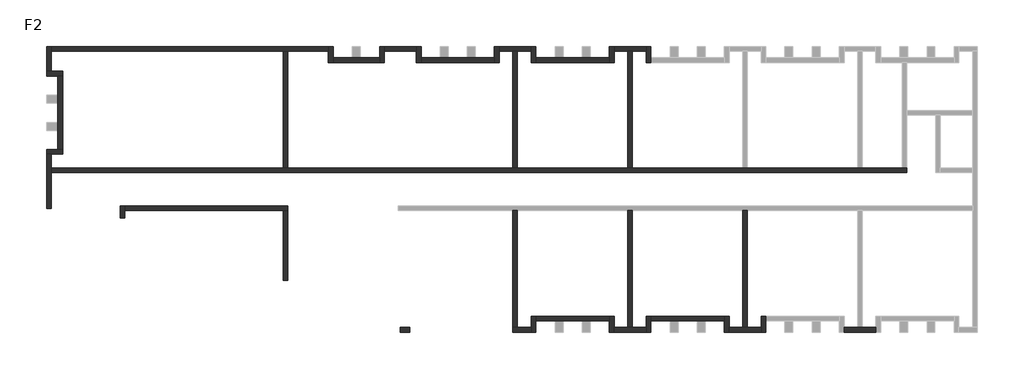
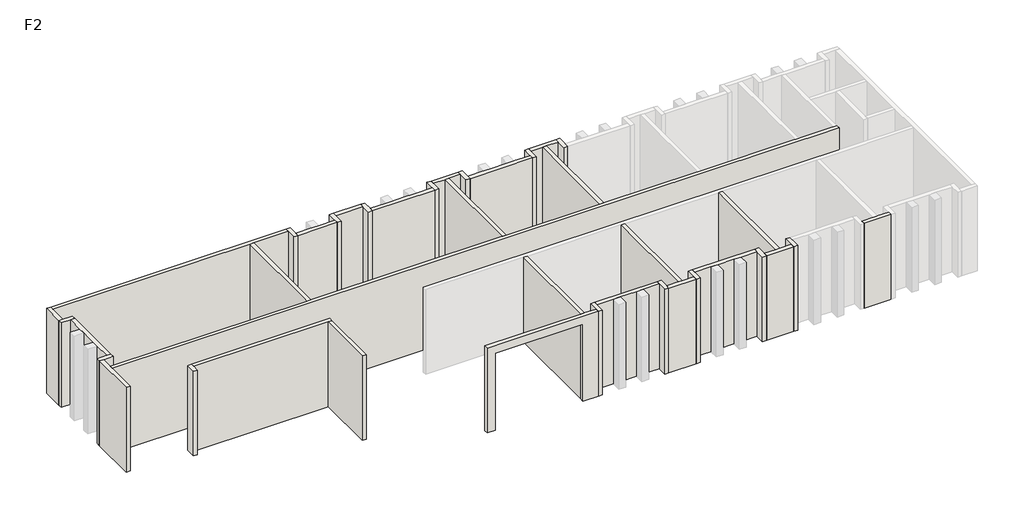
# One storey, part 1 of 2: 41 walls.
"""IFC4 building model written with IfcOpenShell, lengths in millimetres."""

from ifc_helpers import new_model, si_unit, frame, origin, place, context, project, spatial, polyline, outline, extrude, faceted_brep, element, save

model = new_model("IFC4")

# Units and contexts
model_context = context("Model", 3, world=origin())
ifc_project = project(units=[si_unit("LENGTHUNIT", "METRE", prefix="MILLI")], contexts=[model_context])

# Site, building, storey
site = spatial("IfcSite", under=ifc_project)
building = spatial("IfcBuilding", under=site)
storey = spatial("IfcBuildingStorey", under=building, Name="F2", Elevation=3600.0)

# Walls
placement = place(None, origin())
element("IfcWall", 1, ObjectType="F2-F5-24CM-外牆", at=placement, inside=storey, context=model_context, shape_type="Brep", body=[
    faceted_brep([(-38441.7970835, -20669.0484842, 3600.0), (-38441.7970835, -18409.0484842, 3600.0), (-38441.7970835, -18129.0484842, 3600.0), (-38441.7970835, -17269.0484842, 3600.0), (-38441.7970835, -17269.0484842, 10200.0), (-38441.7970835, -18129.0484842, 10200.0), (-38441.7970835, -18409.0484842, 10200.0), (-38441.7970835, -20669.0484842, 10200.0), (-38741.7970835, -20669.0484842, 3600.0), (-38741.7970835, -20669.0484842, 10200.0), (-38741.7970835, -17269.0484842, 10200.0), (-38741.7970835, -17269.0484842, 3600.0)], [[[0, 1, 2, 3, 4, 5, 6, 7]], [[8, 9, 10, 11]], [[3, 2, 1, 0, 8, 11]], [[7, 6, 5, 4, 10, 9]], [[0, 7, 9, 8]], [[4, 3, 11, 10]]]),
])
element("IfcWall", 2, ObjectType="F2-F5-24CM-外牆", at=placement, inside=storey, context=model_context, shape_type="Brep", body=[
    faceted_brep([(-38441.7970835, -10809.0484842, 3600.0), (-23921.7970835, -10809.0484842, 3600.0), (-23641.7970835, -10809.0484842, 3600.0), (-21081.7970835, -10809.0484842, 3600.0), (-21081.7970835, -10809.0484842, 10200.0), (-23641.7970835, -10809.0484842, 10200.0), (-23921.7970835, -10809.0484842, 10200.0), (-38441.7970835, -10809.0484842, 10200.0), (-38441.7970835, -10509.0484842, 3600.0), (-38441.7970835, -10509.0484842, 10200.0), (-21081.7970835, -10509.0484842, 10200.0), (-21081.7970835, -10509.0484842, 3600.0)], [[[0, 1, 2, 3, 4, 5, 6, 7]], [[8, 9, 10, 11]], [[3, 2, 1, 0, 8, 11]], [[7, 6, 5, 4, 10, 9]], [[4, 3, 11, 10]], [[0, 7, 9, 8]]]),
])
element("IfcWall", 3, ObjectType="F2-F5-24CM-外牆", at=placement, inside=storey, context=model_context, shape_type="Brep", body=[
    faceted_brep([(-38741.7970835, -17269.0484842, 3600.0), (-38441.7970835, -17269.0484842, 3600.0), (-37741.7970835, -17269.0484842, 3600.0), (-37741.7970835, -17269.0484842, 10200.0), (-38441.7970835, -17269.0484842, 10200.0), (-38741.7970835, -17269.0484842, 10200.0), (-38741.7970835, -16969.0484842, 3600.0), (-38741.7970835, -16969.0484842, 10200.0), (-38041.7970835, -16969.0484842, 10200.0), (-37741.7970835, -16969.0484842, 10200.0), (-37741.7970835, -16969.0484842, 3600.0), (-38041.7970835, -16969.0484842, 3600.0)], [[[0, 1, 2, 3, 4, 5]], [[6, 7, 8, 9, 10, 11]], [[2, 1, 0, 6, 11, 10]], [[5, 4, 3, 9, 8, 7]], [[0, 5, 7, 6]], [[3, 2, 10, 9]]]),
])
element("IfcWall", 4, ObjectType="F2-F5-24CM-外牆", at=placement, inside=storey, context=model_context, shape_type="Brep", body=[
    faceted_brep([(-37741.7970835, -12069.0484842, 3600.0), (-38441.7970835, -12069.0484842, 3600.0), (-38741.7970835, -12069.0484842, 3600.0), (-38741.7970835, -12069.0484842, 10200.0), (-38441.7970835, -12069.0484842, 10200.0), (-37741.7970835, -12069.0484842, 10200.0), (-37741.7970835, -12369.0484842, 3600.0), (-37741.7970835, -12369.0484842, 10200.0), (-38041.7970835, -12369.0484842, 10200.0), (-38741.7970835, -12369.0484842, 10200.0), (-38741.7970835, -12369.0484842, 3600.0), (-38041.7970835, -12369.0484842, 3600.0)], [[[0, 1, 2, 3, 4, 5]], [[6, 7, 8, 9, 10, 11]], [[2, 1, 0, 6, 11, 10]], [[5, 4, 3, 9, 8, 7]], [[0, 5, 7, 6]], [[3, 2, 10, 9]]]),
])
element("IfcWall", 5, ObjectType="F2-F5-24CM-外牆", at=placement, inside=storey, context=model_context, shape_type="Brep", body=[
    faceted_brep([(-37741.7970835, -16969.0484842, 3600.0), (-37741.7970835, -12369.0484842, 3600.0), (-37741.7970835, -12369.0484842, 10200.0), (-37741.7970835, -16969.0484842, 10200.0), (-38041.7970835, -16969.0484842, 3600.0), (-38041.7970835, -16969.0484842, 10200.0), (-38041.7970835, -15769.0484842, 10200.0), (-38041.7970835, -15269.0484842, 10200.0), (-38041.7970835, -14069.0484842, 10200.0), (-38041.7970835, -13569.0484842, 10200.0), (-38041.7970835, -12369.0484842, 10200.0), (-38041.7970835, -12369.0484842, 3600.0), (-38041.7970835, -13569.0484842, 3600.0), (-38041.7970835, -14069.0484842, 3600.0), (-38041.7970835, -15269.0484842, 3600.0), (-38041.7970835, -15769.0484842, 3600.0)], [[[0, 1, 2, 3]], [[4, 5, 6, 7, 8, 9, 10, 11, 12, 13, 14, 15]], [[1, 0, 4, 15, 14, 13, 12, 11]], [[3, 2, 10, 9, 8, 7, 6, 5]], [[0, 3, 5, 4]], [[2, 1, 11, 10]]]),
])
element("IfcWall", 6, ObjectType="F2-F5-24CM-外牆", at=placement, inside=storey, context=model_context, shape_type="Brep", body=[
    faceted_brep([(-38441.7970835, -12069.0484842, 3600.0), (-38441.7970835, -10809.0484842, 3600.0), (-38441.7970835, -10509.0484842, 3600.0), (-38441.7970835, -10509.0484842, 10200.0), (-38441.7970835, -10809.0484842, 10200.0), (-38441.7970835, -12069.0484842, 10200.0), (-38741.7970835, -12069.0484842, 3600.0), (-38741.7970835, -12069.0484842, 10200.0), (-38741.7970835, -10509.0484842, 10200.0), (-38741.7970835, -10509.0484842, 3600.0)], [[[0, 1, 2, 3, 4, 5]], [[6, 7, 8, 9]], [[2, 1, 0, 6, 9]], [[5, 4, 3, 8, 7]], [[3, 2, 9, 8]], [[0, 5, 7, 6]]]),
])
element("IfcWall", 7, ObjectType="F2-F5-24CM-外牆", at=placement, inside=storey, context=model_context, shape_type="Brep", body=[
    faceted_brep([(-1181.7970835, -10509.0484842, 3600.0), (-1181.7970835, -10809.0484842, 3600.0), (-1181.7970835, -11509.0484842, 3600.0), (-1181.7970835, -11509.0484842, 10200.0), (-1181.7970835, -10809.0484842, 10200.0), (-1181.7970835, -10509.0484842, 10200.0), (-881.7970835, -10509.0484842, 3600.0), (-881.7970835, -10509.0484842, 10200.0), (-881.7970835, -11209.0484842, 10200.0), (-881.7970835, -11509.0484842, 10200.0), (-881.7970835, -11509.0484842, 3600.0), (-881.7970835, -11209.0484842, 3600.0)], [[[0, 1, 2, 3, 4, 5]], [[6, 7, 8, 9, 10, 11]], [[2, 1, 0, 6, 11, 10]], [[5, 4, 3, 9, 8, 7]], [[3, 2, 10, 9]], [[0, 5, 7, 6]]]),
])
element("IfcWall", 8, ObjectType="F2-F5-24CM-外牆", at=placement, inside=storey, context=model_context, shape_type="Brep", body=[
    faceted_brep([(-8081.7970835, -11509.0484842, 3600.0), (-3481.7970835, -11509.0484842, 3600.0), (-3481.7970835, -11509.0484842, 10200.0), (-8081.7970835, -11509.0484842, 10200.0), (-8081.7970835, -11209.0484842, 3600.0), (-8081.7970835, -11209.0484842, 10200.0), (-6881.7970835, -11209.0484842, 10200.0), (-6381.7970835, -11209.0484842, 10200.0), (-5181.7970835, -11209.0484842, 10200.0), (-4681.7970835, -11209.0484842, 10200.0), (-3481.7970835, -11209.0484842, 10200.0), (-3481.7970835, -11209.0484842, 3600.0), (-4681.7970835, -11209.0484842, 3600.0), (-5181.7970835, -11209.0484842, 3600.0), (-6381.7970835, -11209.0484842, 3600.0), (-6881.7970835, -11209.0484842, 3600.0)], [[[0, 1, 2, 3]], [[4, 5, 6, 7, 8, 9, 10, 11, 12, 13, 14, 15]], [[1, 0, 4, 15, 14, 13, 12, 11]], [[3, 2, 10, 9, 8, 7, 6, 5]], [[0, 3, 5, 4]], [[2, 1, 11, 10]]]),
])
element("IfcWall", 9, ObjectType="F2-F5-24CM-外牆", at=placement, inside=storey, context=model_context, shape_type="Brep", body=[
    faceted_brep([(-8381.7970835, -10509.0484842, 3600.0), (-8381.7970835, -10809.0484842, 3600.0), (-8381.7970835, -11509.0484842, 3600.0), (-8381.7970835, -11509.0484842, 10200.0), (-8381.7970835, -10809.0484842, 10200.0), (-8381.7970835, -10509.0484842, 10200.0), (-8081.7970835, -10509.0484842, 3600.0), (-8081.7970835, -10509.0484842, 10200.0), (-8081.7970835, -11209.0484842, 10200.0), (-8081.7970835, -11509.0484842, 10200.0), (-8081.7970835, -11509.0484842, 3600.0), (-8081.7970835, -11209.0484842, 3600.0)], [[[0, 1, 2, 3, 4, 5]], [[6, 7, 8, 9, 10, 11]], [[2, 1, 0, 6, 11, 10]], [[5, 4, 3, 9, 8, 7]], [[3, 2, 10, 9]], [[0, 5, 7, 6]]]),
])
element("IfcWall", 10, ObjectType="F2-F5-24CM-外牆", at=placement, inside=storey, context=model_context, shape_type="Brep", body=[
    faceted_brep([(-3181.7970835, -11509.0484842, 3600.0), (-3181.7970835, -10809.0484842, 3600.0), (-3181.7970835, -10509.0484842, 3600.0), (-3181.7970835, -10509.0484842, 10200.0), (-3181.7970835, -10809.0484842, 10200.0), (-3181.7970835, -11509.0484842, 10200.0), (-3481.7970835, -11509.0484842, 3600.0), (-3481.7970835, -11509.0484842, 10200.0), (-3481.7970835, -11209.0484842, 10200.0), (-3481.7970835, -10509.0484842, 10200.0), (-3481.7970835, -10509.0484842, 3600.0), (-3481.7970835, -11209.0484842, 3600.0)], [[[0, 1, 2, 3, 4, 5]], [[6, 7, 8, 9, 10, 11]], [[2, 1, 0, 6, 11, 10]], [[5, 4, 3, 9, 8, 7]], [[0, 5, 7, 6]], [[3, 2, 10, 9]]]),
])
element("IfcWall", 11, ObjectType="F2-F5-24CM-外牆", at=placement, inside=storey, context=model_context, shape_type="Brep", body=[
    faceted_brep([(-15281.7970835, -11509.0484842, 3600.0), (-10681.7970835, -11509.0484842, 3600.0), (-10681.7970835, -11509.0484842, 10200.0), (-15281.7970835, -11509.0484842, 10200.0), (-15281.7970835, -11209.0484842, 3600.0), (-15281.7970835, -11209.0484842, 10200.0), (-14081.7970835, -11209.0484842, 10200.0), (-13581.7970835, -11209.0484842, 10200.0), (-12381.7970835, -11209.0484842, 10200.0), (-11881.7970835, -11209.0484842, 10200.0), (-10681.7970835, -11209.0484842, 10200.0), (-10681.7970835, -11209.0484842, 3600.0), (-11881.7970835, -11209.0484842, 3600.0), (-12381.7970835, -11209.0484842, 3600.0), (-13581.7970835, -11209.0484842, 3600.0), (-14081.7970835, -11209.0484842, 3600.0)], [[[0, 1, 2, 3]], [[4, 5, 6, 7, 8, 9, 10, 11, 12, 13, 14, 15]], [[1, 0, 4, 15, 14, 13, 12, 11]], [[3, 2, 10, 9, 8, 7, 6, 5]], [[0, 3, 5, 4]], [[2, 1, 11, 10]]]),
])
element("IfcWall", 12, ObjectType="F2-F5-24CM-外牆", at=placement, inside=storey, context=model_context, shape_type="Brep", body=[
    faceted_brep([(-15581.7970835, -10509.0484842, 3600.0), (-15581.7970835, -10809.0484842, 3600.0), (-15581.7970835, -11509.0484842, 3600.0), (-15581.7970835, -11509.0484842, 10200.0), (-15581.7970835, -10809.0484842, 10200.0), (-15581.7970835, -10509.0484842, 10200.0), (-15281.7970835, -10509.0484842, 3600.0), (-15281.7970835, -10509.0484842, 10200.0), (-15281.7970835, -11209.0484842, 10200.0), (-15281.7970835, -11509.0484842, 10200.0), (-15281.7970835, -11509.0484842, 3600.0), (-15281.7970835, -11209.0484842, 3600.0)], [[[0, 1, 2, 3, 4, 5]], [[6, 7, 8, 9, 10, 11]], [[2, 1, 0, 6, 11, 10]], [[5, 4, 3, 9, 8, 7]], [[3, 2, 10, 9]], [[0, 5, 7, 6]]]),
])
element("IfcWall", 13, ObjectType="F2-F5-24CM-外牆", at=placement, inside=storey, context=model_context, shape_type="Brep", body=[
    faceted_brep([(-10381.7970835, -11509.0484842, 3600.0), (-10381.7970835, -10809.0484842, 3600.0), (-10381.7970835, -10509.0484842, 3600.0), (-10381.7970835, -10509.0484842, 10200.0), (-10381.7970835, -10809.0484842, 10200.0), (-10381.7970835, -11509.0484842, 10200.0), (-10681.7970835, -11509.0484842, 3600.0), (-10681.7970835, -11509.0484842, 10200.0), (-10681.7970835, -11209.0484842, 10200.0), (-10681.7970835, -10509.0484842, 10200.0), (-10681.7970835, -10509.0484842, 3600.0), (-10681.7970835, -11209.0484842, 3600.0)], [[[0, 1, 2, 3, 4, 5]], [[6, 7, 8, 9, 10, 11]], [[2, 1, 0, 6, 11, 10]], [[5, 4, 3, 9, 8, 7]], [[0, 5, 7, 6]], [[3, 2, 10, 9]]]),
])
element("IfcWall", 14, ObjectType="F2-F5-24CM-外牆", at=placement, inside=storey, context=model_context, shape_type="Brep", body=[
    faceted_brep([(-20781.7970835, -11509.0484842, 3600.0), (-17881.7970835, -11509.0484842, 3600.0), (-17881.7970835, -11509.0484842, 10200.0), (-20781.7970835, -11509.0484842, 10200.0), (-20781.7970835, -11209.0484842, 3600.0), (-20781.7970835, -11209.0484842, 10200.0), (-19581.7970835, -11209.0484842, 10200.0), (-19081.7970835, -11209.0484842, 10200.0), (-17881.7970835, -11209.0484842, 10200.0), (-17881.7970835, -11209.0484842, 3600.0), (-19081.7970835, -11209.0484842, 3600.0), (-19581.7970835, -11209.0484842, 3600.0)], [[[0, 1, 2, 3]], [[4, 5, 6, 7, 8, 9, 10, 11]], [[1, 0, 4, 11, 10, 9]], [[3, 2, 8, 7, 6, 5]], [[0, 3, 5, 4]], [[2, 1, 9, 8]]]),
])
element("IfcWall", 15, ObjectType="F2-F5-24CM-外牆", at=placement, inside=storey, context=model_context, shape_type="Brep", body=[
    faceted_brep([(-21081.7970835, -10509.0484842, 3600.0), (-21081.7970835, -10809.0484842, 3600.0), (-21081.7970835, -11509.0484842, 3600.0), (-21081.7970835, -11509.0484842, 10200.0), (-21081.7970835, -10809.0484842, 10200.0), (-21081.7970835, -10509.0484842, 10200.0), (-20781.7970835, -10509.0484842, 3600.0), (-20781.7970835, -10509.0484842, 10200.0), (-20781.7970835, -11209.0484842, 10200.0), (-20781.7970835, -11509.0484842, 10200.0), (-20781.7970835, -11509.0484842, 3600.0), (-20781.7970835, -11209.0484842, 3600.0)], [[[0, 1, 2, 3, 4, 5]], [[6, 7, 8, 9, 10, 11]], [[2, 1, 0, 6, 11, 10]], [[5, 4, 3, 9, 8, 7]], [[3, 2, 10, 9]], [[0, 5, 7, 6]]]),
])
element("IfcWall", 16, ObjectType="F2-F5-24CM-外牆", at=placement, inside=storey, context=model_context, shape_type="Brep", body=[
    faceted_brep([(-17581.7970835, -11509.0484842, 3600.0), (-17581.7970835, -10809.0484842, 3600.0), (-17581.7970835, -10509.0484842, 3600.0), (-17581.7970835, -10509.0484842, 10200.0), (-17581.7970835, -10809.0484842, 10200.0), (-17581.7970835, -11509.0484842, 10200.0), (-17881.7970835, -11509.0484842, 3600.0), (-17881.7970835, -11509.0484842, 10200.0), (-17881.7970835, -11209.0484842, 10200.0), (-17881.7970835, -10509.0484842, 10200.0), (-17881.7970835, -10509.0484842, 3600.0), (-17881.7970835, -11209.0484842, 3600.0)], [[[0, 1, 2, 3, 4, 5]], [[6, 7, 8, 9, 10, 11]], [[2, 1, 0, 6, 11, 10]], [[5, 4, 3, 9, 8, 7]], [[0, 5, 7, 6]], [[3, 2, 10, 9]]]),
])
element("IfcWall", 17, ObjectType="F2-F5-24CM-外牆", at=placement, inside=storey, context=model_context, shape_type="Brep", body=[
    faceted_brep([(-3181.7970835, -10809.0484842, 3600.0), (-2321.7970835, -10809.0484842, 3600.0), (-2041.7970835, -10809.0484842, 3600.0), (-1181.7970835, -10809.0484842, 3600.0), (-1181.7970835, -10809.0484842, 10200.0), (-2041.7970835, -10809.0484842, 10200.0), (-2321.7970835, -10809.0484842, 10200.0), (-3181.7970835, -10809.0484842, 10200.0), (-3181.7970835, -10509.0484842, 3600.0), (-3181.7970835, -10509.0484842, 10200.0), (-1181.7970835, -10509.0484842, 10200.0), (-1181.7970835, -10509.0484842, 3600.0)], [[[0, 1, 2, 3, 4, 5, 6, 7]], [[8, 9, 10, 11]], [[3, 2, 1, 0, 8, 11]], [[7, 6, 5, 4, 10, 9]], [[4, 3, 11, 10]], [[0, 7, 9, 8]]]),
])
element("IfcWall", 18, ObjectType="F2-F5-24CM-外牆", at=placement, inside=storey, context=model_context, shape_type="Brep", body=[
    faceted_brep([(-10381.7970835, -10809.0484842, 3600.0), (-9521.7970835, -10809.0484842, 3600.0), (-9241.7970835, -10809.0484842, 3600.0), (-8381.7970835, -10809.0484842, 3600.0), (-8381.7970835, -10809.0484842, 10200.0), (-9241.7970835, -10809.0484842, 10200.0), (-9521.7970835, -10809.0484842, 10200.0), (-10381.7970835, -10809.0484842, 10200.0), (-10381.7970835, -10509.0484842, 3600.0), (-10381.7970835, -10509.0484842, 10200.0), (-8381.7970835, -10509.0484842, 10200.0), (-8381.7970835, -10509.0484842, 3600.0)], [[[0, 1, 2, 3, 4, 5, 6, 7]], [[8, 9, 10, 11]], [[3, 2, 1, 0, 8, 11]], [[7, 6, 5, 4, 10, 9]], [[4, 3, 11, 10]], [[0, 7, 9, 8]]]),
])
element("IfcWall", 19, ObjectType="F2-F5-24CM-外牆", at=placement, inside=storey, context=model_context, shape_type="SweptSolid", body=[
    extrude(outline(polyline([(-15581.7970835, -10809.0484842), (-17581.7970835, -10809.0484842), (-17581.7970835, -10509.0484842), (-15581.7970835, -10509.0484842), (-15581.7970835, -10809.0484842)])), frame((0.0, 0.0, 3600.0), z_axis=(0.0, 0.0, 1.0), x_axis=(1.0, 0.0, 0.0)), (0.0, 0.0, 1.0), 6600.0),
])
element("IfcWall", 20, ObjectType="F2-F5-24CM-外牆", at=placement, inside=storey, context=model_context, shape_type="Brep", body=[
    faceted_brep([(6318.2029165, -28429.0484842, 3600.0), (6318.2029165, -27729.0484842, 3600.0), (6318.2029165, -27429.0484842, 3600.0), (6318.2029165, -27429.0484842, 10200.0), (6318.2029165, -27729.0484842, 10200.0), (6318.2029165, -28429.0484842, 10200.0), (6018.2029165, -28429.0484842, 3600.0), (6018.2029165, -28429.0484842, 10200.0), (6018.2029165, -28129.0484842, 10200.0), (6018.2029165, -27429.0484842, 10200.0), (6018.2029165, -27429.0484842, 3600.0), (6018.2029165, -28129.0484842, 3600.0)], [[[0, 1, 2, 3, 4, 5]], [[6, 7, 8, 9, 10, 11]], [[2, 1, 0, 6, 11, 10]], [[5, 4, 3, 9, 8, 7]], [[3, 2, 10, 9]], [[0, 5, 7, 6]]]),
])
element("IfcWall", 21, ObjectType="F2-F5-24CM-外牆", at=placement, inside=storey, context=model_context, shape_type="Brep", body=[
    faceted_brep([(-881.7970835, -27729.0484842, 3600.0), (318.2029165, -27729.0484842, 3600.0), (818.2029165, -27729.0484842, 3600.0), (2018.2029165, -27729.0484842, 3600.0), (2518.2029165, -27729.0484842, 3600.0), (3718.2029165, -27729.0484842, 3600.0), (3718.2029165, -27729.0484842, 10200.0), (2518.2029165, -27729.0484842, 10200.0), (2018.2029165, -27729.0484842, 10200.0), (818.2029165, -27729.0484842, 10200.0), (318.2029165, -27729.0484842, 10200.0), (-881.7970835, -27729.0484842, 10200.0), (-881.7970835, -27429.0484842, 3600.0), (-881.7970835, -27429.0484842, 10200.0), (3718.2029165, -27429.0484842, 10200.0), (3718.2029165, -27429.0484842, 3600.0)], [[[0, 1, 2, 3, 4, 5, 6, 7, 8, 9, 10, 11]], [[12, 13, 14, 15]], [[5, 4, 3, 2, 1, 0, 12, 15]], [[11, 10, 9, 8, 7, 6, 14, 13]], [[0, 11, 13, 12]], [[6, 5, 15, 14]]]),
])
element("IfcWall", 22, ObjectType="F2-F5-24CM-外牆", at=placement, inside=storey, context=model_context, shape_type="Brep", body=[
    faceted_brep([(-881.7970835, -28429.0484842, 3600.0), (-881.7970835, -27729.0484842, 3600.0), (-881.7970835, -27429.0484842, 3600.0), (-881.7970835, -27429.0484842, 10200.0), (-881.7970835, -27729.0484842, 10200.0), (-881.7970835, -28429.0484842, 10200.0), (-1181.7970835, -28429.0484842, 3600.0), (-1181.7970835, -28429.0484842, 10200.0), (-1181.7970835, -28129.0484842, 10200.0), (-1181.7970835, -27429.0484842, 10200.0), (-1181.7970835, -27429.0484842, 3600.0), (-1181.7970835, -28129.0484842, 3600.0)], [[[0, 1, 2, 3, 4, 5]], [[6, 7, 8, 9, 10, 11]], [[2, 1, 0, 6, 11, 10]], [[5, 4, 3, 9, 8, 7]], [[3, 2, 10, 9]], [[0, 5, 7, 6]]]),
])
element("IfcWall", 23, ObjectType="F2-F5-24CM-外牆", at=placement, inside=storey, context=model_context, shape_type="Brep", body=[
    faceted_brep([(3718.2029165, -27429.0484842, 3600.0), (3718.2029165, -27729.0484842, 3600.0), (3718.2029165, -28429.0484842, 3600.0), (3718.2029165, -28429.0484842, 10200.0), (3718.2029165, -27729.0484842, 10200.0), (3718.2029165, -27429.0484842, 10200.0), (4018.2029165, -27429.0484842, 3600.0), (4018.2029165, -27429.0484842, 10200.0), (4018.2029165, -28129.0484842, 10200.0), (4018.2029165, -28429.0484842, 10200.0), (4018.2029165, -28429.0484842, 3600.0), (4018.2029165, -28129.0484842, 3600.0)], [[[0, 1, 2, 3, 4, 5]], [[6, 7, 8, 9, 10, 11]], [[2, 1, 0, 6, 11, 10]], [[5, 4, 3, 9, 8, 7]], [[0, 5, 7, 6]], [[3, 2, 10, 9]]]),
])
element("IfcWall", 24, ObjectType="F2-F5-24CM-外牆", at=placement, inside=storey, context=model_context, shape_type="Brep", body=[
    faceted_brep([(-8081.7970835, -27729.0484842, 3600.0), (-6881.7970835, -27729.0484842, 3600.0), (-6381.7970835, -27729.0484842, 3600.0), (-5181.7970835, -27729.0484842, 3600.0), (-4681.7970835, -27729.0484842, 3600.0), (-3481.7970835, -27729.0484842, 3600.0), (-3481.7970835, -27729.0484842, 10200.0), (-4681.7970835, -27729.0484842, 10200.0), (-5181.7970835, -27729.0484842, 10200.0), (-6381.7970835, -27729.0484842, 10200.0), (-6881.7970835, -27729.0484842, 10200.0), (-8081.7970835, -27729.0484842, 10200.0), (-8081.7970835, -27429.0484842, 3600.0), (-8081.7970835, -27429.0484842, 10200.0), (-3481.7970835, -27429.0484842, 10200.0), (-3481.7970835, -27429.0484842, 3600.0)], [[[0, 1, 2, 3, 4, 5, 6, 7, 8, 9, 10, 11]], [[12, 13, 14, 15]], [[5, 4, 3, 2, 1, 0, 12, 15]], [[11, 10, 9, 8, 7, 6, 14, 13]], [[0, 11, 13, 12]], [[6, 5, 15, 14]]]),
])
element("IfcWall", 25, ObjectType="F2-F5-24CM-外牆", at=placement, inside=storey, context=model_context, shape_type="Brep", body=[
    faceted_brep([(-8081.7970835, -28429.0484842, 3600.0), (-8081.7970835, -27729.0484842, 3600.0), (-8081.7970835, -27429.0484842, 3600.0), (-8081.7970835, -27429.0484842, 10200.0), (-8081.7970835, -27729.0484842, 10200.0), (-8081.7970835, -28429.0484842, 10200.0), (-8381.7970835, -28429.0484842, 3600.0), (-8381.7970835, -28429.0484842, 10200.0), (-8381.7970835, -28129.0484842, 10200.0), (-8381.7970835, -27429.0484842, 10200.0), (-8381.7970835, -27429.0484842, 3600.0), (-8381.7970835, -28129.0484842, 3600.0)], [[[0, 1, 2, 3, 4, 5]], [[6, 7, 8, 9, 10, 11]], [[2, 1, 0, 6, 11, 10]], [[5, 4, 3, 9, 8, 7]], [[3, 2, 10, 9]], [[0, 5, 7, 6]]]),
])
element("IfcWall", 26, ObjectType="F2-F5-24CM-外牆", at=placement, inside=storey, context=model_context, shape_type="Brep", body=[
    faceted_brep([(-3481.7970835, -27429.0484842, 3600.0), (-3481.7970835, -27729.0484842, 3600.0), (-3481.7970835, -28429.0484842, 3600.0), (-3481.7970835, -28429.0484842, 10200.0), (-3481.7970835, -27729.0484842, 10200.0), (-3481.7970835, -27429.0484842, 10200.0), (-3181.7970835, -27429.0484842, 3600.0), (-3181.7970835, -27429.0484842, 10200.0), (-3181.7970835, -28129.0484842, 10200.0), (-3181.7970835, -28429.0484842, 10200.0), (-3181.7970835, -28429.0484842, 3600.0), (-3181.7970835, -28129.0484842, 3600.0)], [[[0, 1, 2, 3, 4, 5]], [[6, 7, 8, 9, 10, 11]], [[2, 1, 0, 6, 11, 10]], [[5, 4, 3, 9, 8, 7]], [[0, 5, 7, 6]], [[3, 2, 10, 9]]]),
])
element("IfcWall", 27, ObjectType="F2-F5-24CM-外牆", at=placement, inside=storey, context=model_context, shape_type="Brep", body=[
    faceted_brep([(-16581.7970835, -28129.0484842, 3600.0), (-16581.7970835, -28129.0484842, 10200.0), (-9521.7970835, -28129.0484842, 10200.0), (-9241.7970835, -28129.0484842, 10200.0), (-8381.7970835, -28129.0484842, 10200.0), (-8381.7970835, -28129.0484842, 3600.0), (-9241.7970835, -28129.0484842, 3600.0), (-9521.7970835, -28129.0484842, 3600.0), (-9521.7970835, -28129.0484842, 9600.0), (-15981.7970835, -28129.0484842, 9600.0), (-15981.7970835, -28129.0484842, 3600.0), (-16581.7970835, -28429.0484842, 10200.0), (-16581.7970835, -28429.0484842, 3600.0), (-15981.7970835, -28429.0484842, 3600.0), (-15981.7970835, -28429.0484842, 9600.0), (-9521.7970835, -28429.0484842, 9600.0), (-9521.7970835, -28429.0484842, 3600.0), (-8381.7970835, -28429.0484842, 3600.0), (-8381.7970835, -28429.0484842, 10200.0)], [[[0, 1, 2, 3, 4, 5, 6, 7, 8, 9, 10]], [[11, 12, 13, 14, 15, 16, 17, 18]], [[12, 0, 10, 13]], [[5, 17, 16, 7, 6]], [[1, 0, 12, 11]], [[4, 3, 2, 1, 11, 18]], [[17, 5, 4, 18]], [[9, 14, 13, 10]], [[14, 9, 8, 15]], [[15, 8, 7, 16]]]),
])
element("IfcWall", 28, ObjectType="F2-F5-24CM-外牆", at=placement, inside=storey, context=model_context, shape_type="Brep", body=[
    faceted_brep([(-1181.7970835, -28129.0484842, 3600.0), (-2041.7970835, -28129.0484842, 3600.0), (-2321.7970835, -28129.0484842, 3600.0), (-3181.7970835, -28129.0484842, 3600.0), (-3181.7970835, -28129.0484842, 10200.0), (-2321.7970835, -28129.0484842, 10200.0), (-2041.7970835, -28129.0484842, 10200.0), (-1181.7970835, -28129.0484842, 10200.0), (-1181.7970835, -28429.0484842, 3600.0), (-1181.7970835, -28429.0484842, 10200.0), (-3181.7970835, -28429.0484842, 10200.0), (-3181.7970835, -28429.0484842, 3600.0)], [[[0, 1, 2, 3, 4, 5, 6, 7]], [[8, 9, 10, 11]], [[3, 2, 1, 0, 8, 11]], [[7, 6, 5, 4, 10, 9]], [[0, 7, 9, 8]], [[4, 3, 11, 10]]]),
])
element("IfcWall", 29, ObjectType="F2-F5-24CM-外牆", at=placement, inside=storey, context=model_context, shape_type="Brep", body=[
    faceted_brep([(6018.2029165, -28129.0484842, 3600.0), (5163.2029165, -28129.0484842, 3600.0), (4883.2029165, -28129.0484842, 3600.0), (4018.2029165, -28129.0484842, 3600.0), (4018.2029165, -28129.0484842, 10200.0), (4883.2029165, -28129.0484842, 10200.0), (5163.2029165, -28129.0484842, 10200.0), (6018.2029165, -28129.0484842, 10200.0), (6018.2029165, -28429.0484842, 3600.0), (6018.2029165, -28429.0484842, 10200.0), (4018.2029165, -28429.0484842, 10200.0), (4018.2029165, -28429.0484842, 3600.0)], [[[0, 1, 2, 3, 4, 5, 6, 7]], [[8, 9, 10, 11]], [[3, 2, 1, 0, 8, 11]], [[7, 6, 5, 4, 10, 9]], [[0, 7, 9, 8]], [[4, 3, 11, 10]]]),
])
element("IfcWall", 30, ObjectType="F2-F5-24CM-外牆", at=placement, inside=storey, context=model_context, shape_type="Brep", body=[
    faceted_brep([(13218.2029165, -28129.0484842, 3600.0), (12358.2029165, -28129.0484842, 3600.0), (12078.2029165, -28129.0484842, 3600.0), (11218.2029165, -28129.0484842, 3600.0), (11218.2029165, -28129.0484842, 10200.0), (12078.2029165, -28129.0484842, 10200.0), (12358.2029165, -28129.0484842, 10200.0), (13218.2029165, -28129.0484842, 10200.0), (13218.2029165, -28429.0484842, 3600.0), (13218.2029165, -28429.0484842, 10200.0), (11218.2029165, -28429.0484842, 10200.0), (11218.2029165, -28429.0484842, 3600.0)], [[[0, 1, 2, 3, 4, 5, 6, 7]], [[8, 9, 10, 11]], [[3, 2, 1, 0, 8, 11]], [[7, 6, 5, 4, 10, 9]], [[0, 7, 9, 8]], [[4, 3, 11, 10]]]),
])
element("IfcWall", 31, ObjectType="辦公室-24cm-內牆", at=placement, inside=storey, context=model_context, shape_type="SweptSolid", body=[
    extrude(outline(polyline([(-9521.7970835, -18129.0484842), (-9521.7970835, -10809.0484842), (-9241.7970835, -10809.0484842), (-9241.7970835, -18129.0484842), (-9521.7970835, -18129.0484842)])), frame((0.0, 0.0, 3600.0), z_axis=(0.0, 0.0, 1.0), x_axis=(1.0, 0.0, 0.0)), (0.0, 0.0, 1.0), 6600.0),
])
element("IfcWall", 32, ObjectType="辦公室-24cm-內牆", at=placement, inside=storey, context=model_context, shape_type="Brep", body=[
    faceted_brep([(-9241.7970835, -28129.0484842, 10200.0), (-9241.7970835, -28129.0484842, 3600.0), (-9241.7970835, -20809.0484842, 3600.0), (-9241.7970835, -20809.0484842, 10200.0), (-9521.7970835, -28129.0484842, 3600.0), (-9521.7970835, -28129.0484842, 9600.0), (-9521.7970835, -28129.0484842, 10200.0), (-9521.7970835, -20809.0484842, 10200.0), (-9521.7970835, -20809.0484842, 3600.0)], [[[0, 1, 2, 3]], [[4, 5, 6, 7, 8]], [[2, 1, 4, 8]], [[0, 3, 7, 6]], [[3, 2, 8, 7]], [[0, 6, 5, 4, 1]]]),
])
element("IfcWall", 33, ObjectType="辦公室-24cm-內牆", at=placement, inside=storey, context=model_context, shape_type="SweptSolid", body=[
    extrude(outline(polyline([(-2321.7970835, -28129.0484842), (-2321.7970835, -20809.0484842), (-2041.7970835, -20809.0484842), (-2041.7970835, -28129.0484842), (-2321.7970835, -28129.0484842)])), frame((0.0, 0.0, 3600.0), z_axis=(0.0, 0.0, 1.0), x_axis=(1.0, 0.0, 0.0)), (0.0, 0.0, 1.0), 6600.0),
])
element("IfcWall", 34, ObjectType="辦公室-24cm-內牆", at=placement, inside=storey, context=model_context, shape_type="SweptSolid", body=[
    extrude(outline(polyline([(4883.2029165, -28129.0484842), (4883.2029165, -20809.0484842), (5163.2029165, -20809.0484842), (5163.2029165, -28129.0484842), (4883.2029165, -28129.0484842)])), frame((0.0, 0.0, 3600.0), z_axis=(0.0, 0.0, 1.0), x_axis=(1.0, 0.0, 0.0)), (0.0, 0.0, 1.0), 6600.0),
])
element("IfcWall", 35, ObjectType="辦公室-24cm-內牆", at=placement, inside=storey, context=model_context, shape_type="SweptSolid", body=[
    extrude(outline(polyline([(-9521.7970835, -18129.0484842), (-9521.7970835, -10809.0484842), (-9241.7970835, -10809.0484842), (-9241.7970835, -18129.0484842), (-9521.7970835, -18129.0484842)])), frame((0.0, 0.0, 3600.0), z_axis=(0.0, 0.0, 1.0), x_axis=(1.0, 0.0, 0.0)), (0.0, 0.0, 1.0), 6600.0),
])
element("IfcWall", 36, ObjectType="辦公室-24cm-內牆", at=placement, inside=storey, context=model_context, shape_type="Brep", body=[
    faceted_brep([(-38441.7970835, -18409.0484842, 3600.0), (15158.2029165, -18409.0484842, 3600.0), (15158.2029165, -18409.0484842, 10200.0), (-38441.7970835, -18409.0484842, 10200.0), (-38441.7970835, -18129.0484842, 3600.0), (-38441.7970835, -18129.0484842, 10200.0), (-23921.7970835, -18129.0484842, 10200.0), (-23641.7970835, -18129.0484842, 10200.0), (-9521.7970835, -18129.0484842, 10200.0), (-9241.7970835, -18129.0484842, 10200.0), (-2321.7970835, -18129.0484842, 10200.0), (-2041.7970835, -18129.0484842, 10200.0), (4878.2029165, -18129.0484842, 10200.0), (5158.2029165, -18129.0484842, 10200.0), (12078.2029165, -18129.0484842, 10200.0), (12358.2029165, -18129.0484842, 10200.0), (14878.2029165, -18129.0484842, 10200.0), (15158.2029165, -18129.0484842, 10200.0), (15158.2029165, -18129.0484842, 3600.0), (14878.2029165, -18129.0484842, 3600.0), (12358.2029165, -18129.0484842, 3600.0), (12078.2029165, -18129.0484842, 3600.0), (5158.2029165, -18129.0484842, 3600.0), (4878.2029165, -18129.0484842, 3600.0), (-2041.7970835, -18129.0484842, 3600.0), (-2321.7970835, -18129.0484842, 3600.0), (-9241.7970835, -18129.0484842, 3600.0), (-9521.7970835, -18129.0484842, 3600.0), (-23641.7970835, -18129.0484842, 3600.0), (-23921.7970835, -18129.0484842, 3600.0)], [[[0, 1, 2, 3]], [[4, 5, 6, 7, 8, 9, 10, 11, 12, 13, 14, 15, 16, 17, 18, 19, 20, 21, 22, 23, 24, 25, 26, 27, 28, 29]], [[1, 0, 4, 29, 28, 27, 26, 25, 24, 23, 22, 21, 20, 19, 18]], [[3, 2, 17, 16, 15, 14, 13, 12, 11, 10, 9, 8, 7, 6, 5]], [[2, 1, 18, 17]], [[0, 3, 5, 4]]]),
])
element("IfcWall", 37, ObjectType="辦公室-24cm-內牆", at=placement, inside=storey, context=model_context, shape_type="SweptSolid", body=[
    extrude(outline(polyline([(-2321.7970835, -18129.0484842), (-2321.7970835, -10809.0484842), (-2041.7970835, -10809.0484842), (-2041.7970835, -18129.0484842), (-2321.7970835, -18129.0484842)])), frame((0.0, 0.0, 3600.0), z_axis=(0.0, 0.0, 1.0), x_axis=(1.0, 0.0, 0.0)), (0.0, 0.0, 1.0), 6600.0),
])
element("IfcWall", 38, ObjectType="辦公室-24cm-內牆", at=placement, inside=storey, context=model_context, shape_type="SweptSolid", body=[
    extrude(outline(polyline([(-23921.7970835, -18129.0484842), (-23921.7970835, -10809.0484842), (-23641.7970835, -10809.0484842), (-23641.7970835, -18129.0484842), (-23921.7970835, -18129.0484842)])), frame((0.0, 0.0, 3600.0), z_axis=(0.0, 0.0, 1.0), x_axis=(1.0, 0.0, 0.0)), (0.0, 0.0, 1.0), 6600.0),
])
element("IfcWall", 39, ObjectType="辦公室-24cm-內牆", at=placement, inside=storey, context=model_context, shape_type="Brep", body=[
    faceted_brep([(-33841.7970835, -21269.0484842, 3600.0), (-33841.7970835, -20809.0484842, 3600.0), (-33841.7970835, -20529.0484842, 3600.0), (-33841.7970835, -20529.0484842, 10200.0), (-33841.7970835, -20809.0484842, 10200.0), (-33841.7970835, -21269.0484842, 10200.0), (-34121.7970835, -21269.0484842, 3600.0), (-34121.7970835, -21269.0484842, 10200.0), (-34121.7970835, -20529.0484842, 10200.0), (-34121.7970835, -20529.0484842, 3600.0)], [[[0, 1, 2, 3, 4, 5]], [[6, 7, 8, 9]], [[2, 1, 0, 6, 9]], [[5, 4, 3, 8, 7]], [[0, 5, 7, 6]], [[3, 2, 9, 8]]]),
])
element("IfcWall", 40, ObjectType="辦公室-24cm-內牆", at=placement, inside=storey, context=model_context, shape_type="Brep", body=[
    faceted_brep([(-33841.7970835, -20809.0484842, 3600.0), (-23921.7970835, -20809.0484842, 3600.0), (-23641.7970835, -20809.0484842, 3600.0), (-23641.7970835, -20809.0484842, 10200.0), (-23921.7970835, -20809.0484842, 10200.0), (-33841.7970835, -20809.0484842, 10200.0), (-33841.7970835, -20529.0484842, 3600.0), (-33841.7970835, -20529.0484842, 10200.0), (-23641.7970835, -20529.0484842, 10200.0), (-23641.7970835, -20529.0484842, 3600.0)], [[[0, 1, 2, 3, 4, 5]], [[6, 7, 8, 9]], [[2, 1, 0, 6, 9]], [[5, 4, 3, 8, 7]], [[0, 5, 7, 6]], [[3, 2, 9, 8]]]),
])
element("IfcWall", 41, ObjectType="辦公室-24cm-內牆", at=placement, inside=storey, context=model_context, shape_type="SweptSolid", body=[
    extrude(outline(polyline([(-23921.7970835, -25169.0484842), (-23921.7970835, -20809.0484842), (-23641.7970835, -20809.0484842), (-23641.7970835, -25169.0484842), (-23921.7970835, -25169.0484842)])), frame((0.0, 0.0, 3600.0), z_axis=(0.0, 0.0, 1.0), x_axis=(1.0, 0.0, 0.0)), (0.0, 0.0, 1.0), 6600.0),
])

save(model, "model.ifc")
